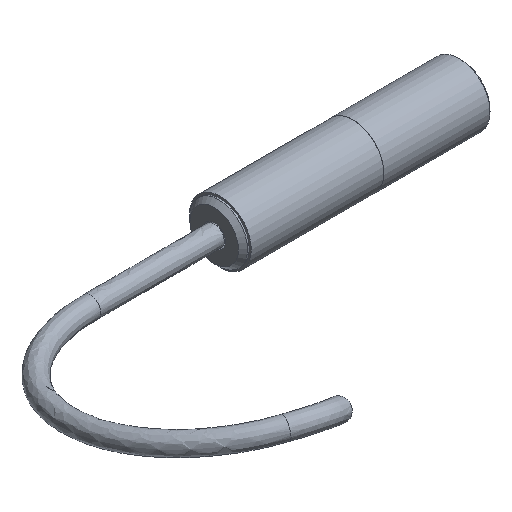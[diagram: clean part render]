
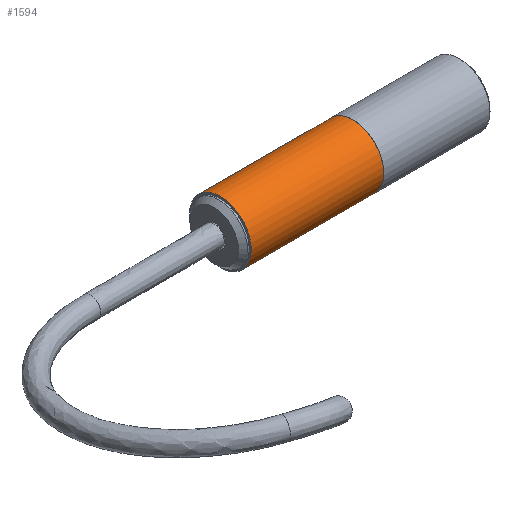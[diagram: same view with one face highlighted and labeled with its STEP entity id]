
A CAD part, isometric view. The second image highlights one B-rep face of the part: STEP entity #1594.
In plain terms, the highlighted cylindrical face has radius 7.5 mm (diameter 15 mm), a full revolution.
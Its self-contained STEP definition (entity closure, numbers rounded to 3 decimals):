
#21 = DIRECTION ( 'NONE',  ( -1., 0., 0. ) ) ;
#67 = DIRECTION ( 'NONE',  ( -1., 0., 0. ) ) ;
#83 = CIRCLE ( 'NONE', #135, 7.5 ) ;
#135 = AXIS2_PLACEMENT_3D ( 'NONE', #2982, #790, #2740 ) ;
#235 = AXIS2_PLACEMENT_3D ( 'NONE', #2487, #67, #1032 ) ;
#242 = CARTESIAN_POINT ( 'NONE',  ( 0., 0., 7.5 ) ) ;
#266 = FACE_OUTER_BOUND ( 'NONE', #786, .T. ) ;
#362 = CARTESIAN_POINT ( 'NONE',  ( 32.2, 0., -7.5 ) ) ;
#371 = ORIENTED_EDGE ( 'NONE', *, *, #406, .F. ) ;
#406 = EDGE_CURVE ( 'NONE', #539, #539, #1144, .T. ) ;
#484 = EDGE_LOOP ( 'NONE', ( #371 ) ) ;
#507 = CYLINDRICAL_SURFACE ( 'NONE', #1708, 7.5 ) ;
#539 = VERTEX_POINT ( 'NONE', #242 ) ;
#725 = DIRECTION ( 'NONE',  ( 0., 0., 1. ) ) ;
#786 = EDGE_LOOP ( 'NONE', ( #1487 ) ) ;
#790 = DIRECTION ( 'NONE',  ( 1., 0., 0. ) ) ;
#968 = FACE_OUTER_BOUND ( 'NONE', #484, .T. ) ;
#1032 = DIRECTION ( 'NONE',  ( 0., 0., 1. ) ) ;
#1075 = VERTEX_POINT ( 'NONE', #362 ) ;
#1144 = CIRCLE ( 'NONE', #235, 7.5 ) ;
#1487 = ORIENTED_EDGE ( 'NONE', *, *, #1910, .F. ) ;
#1594 = ADVANCED_FACE ( 'NONE', ( #968, #266 ), #507, .T. ) ;
#1708 = AXIS2_PLACEMENT_3D ( 'NONE', #2916, #21, #725 ) ;
#1910 = EDGE_CURVE ( 'NONE', #1075, #1075, #83, .T. ) ;
#2487 = CARTESIAN_POINT ( 'NONE',  ( 0., 0., 0. ) ) ;
#2740 = DIRECTION ( 'NONE',  ( 0., 0., -1. ) ) ;
#2916 = CARTESIAN_POINT ( 'NONE',  ( 0., 0., 0. ) ) ;
#2982 = CARTESIAN_POINT ( 'NONE',  ( 32.2, 0., 0. ) ) ;
